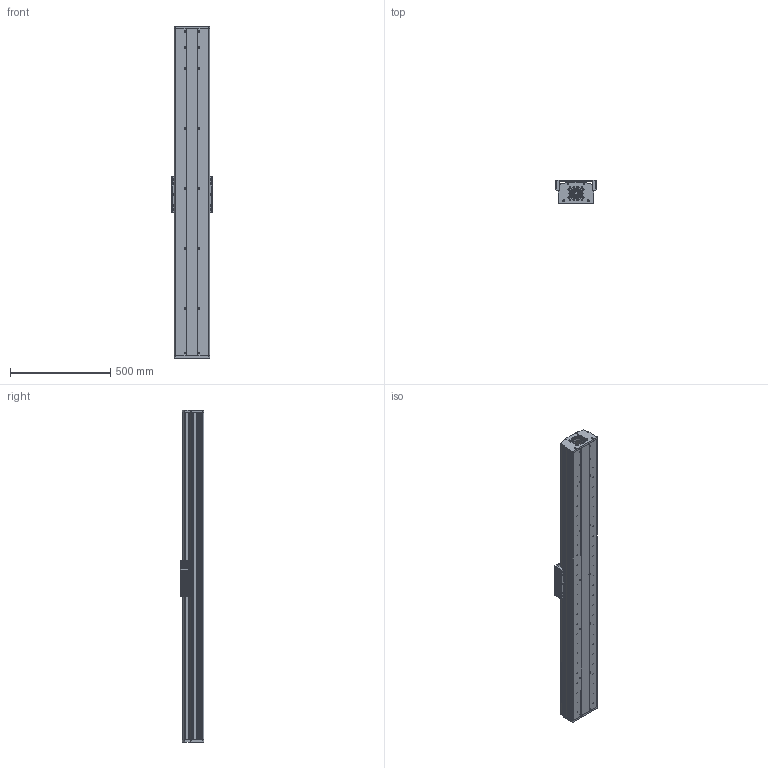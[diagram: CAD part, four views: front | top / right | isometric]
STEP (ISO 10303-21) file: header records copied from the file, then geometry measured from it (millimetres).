
FILE_DESCRIPTION (( 'STEP AP203' ), '1' );
FILE_NAME ('CF175-2-P1300.STEP', '2016-02-23T07:40:50', ( 'Sky123.Org' ), ( 'Sky123.Org' ), 'SwSTEP 2.0', 'SolidWorks 2015', '' );
FILE_SCHEMA (( 'CONFIG_CONTROL_DESIGN' ));
Length unit declared in the file: millimetre
Products named in the file (13): Y1-CF175-2-P1200-1547臏倰第; Y1-HGR20-1500絳寢; CF-HGH20CA賑輸; CF175-2賑雄啣; SFU2505-4; 175-2梓袧嘐隅釱; X1-SFS2525-1185; 175-2侜督80萇儂釱; 175-2耜啣; CF175-2-P1300; 175-2盓傅釱; CF175-2蹟譫釱; Y1-CF175-2-P1200-1547裔啣
Assembly tree (16 placements, depth 2):
  CF175-2-P1300
    CF-HGH20CA賑輸  x4
    SFU2505-4
    X1-SFS2525-1185
    175-2耜啣
    175-2盓傅釱
    CF175-2蹟譫釱
    Y1-CF175-2-P1200-1547裔啣
    Y1-CF175-2-P1200-1547臏倰第
    Y1-HGR20-1500絳寢  x2
    CF175-2賑雄啣
    175-2梓袧嘐隅釱
    175-2侜督80萇儂釱
Bounding box: 200 x 116.8 x 1655 mm (x, y, z)
Volume: 11969345 mm3; surface area: 3264018.7 mm2
Topology: 20 solids, 20 shells, 1544 faces, 4062 edges, 2692 vertices
Faces by surface type: cylinder 849, plane 673, cone 20, bspline 2
Entity records: 45276 total; most frequent: CARTESIAN_POINT 11664, DIRECTION 7036, ORIENTED_EDGE 6462, EDGE_CURVE 3231, AXIS2_PLACEMENT_3D 2673, VERTEX_POINT 2140, LINE 1690, VECTOR 1690
